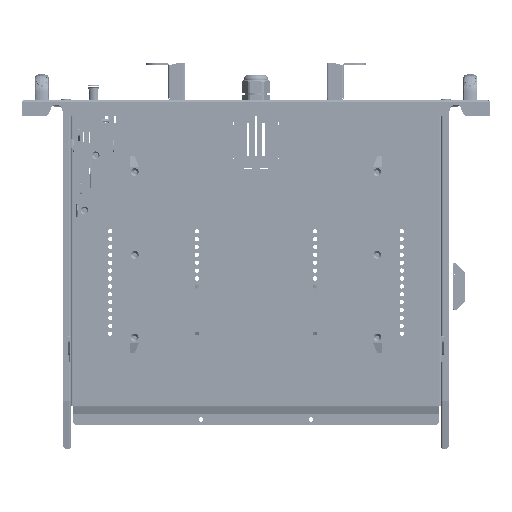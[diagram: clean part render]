
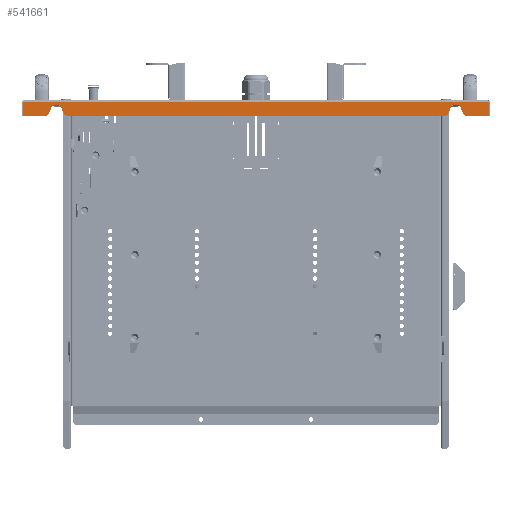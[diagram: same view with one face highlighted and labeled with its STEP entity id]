
A CAD part, front view. The second image highlights one B-rep face of the part: STEP entity #541661.
In plain terms, the highlighted planar face has unit normal (0, -1, 0).
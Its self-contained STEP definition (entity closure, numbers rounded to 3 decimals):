
#535806=CARTESIAN_POINT(' ',(1.6,0.,-2.5));
#535807=VERTEX_POINT(' ',#535806);
#535821=CARTESIAN_POINT(' ',(1.6,0.,-2.5));
#535826=DIRECTION(' ',(1.,0.,0.));
#535831=VECTOR(' ',#535826,1.);
#535836=LINE('',#535821,#535831);
#535841=CARTESIAN_POINT(' ',(592.4,0.,-2.5));
#535842=VERTEX_POINT(' ',#535841);
#535846=EDGE_CURVE(' ',#535807,#535842,#535836,.T.);
#540941=DIRECTION(' ',(-0.,-1.,0.));
#540946=CARTESIAN_POINT(' ',(1.6,0.,-20.));
#540951=DIRECTION(' ',(1.,-0.,0.));
#540956=AXIS2_PLACEMENT_3D(' ',#540946,#540941,#540951);
#540961=PLANE('NONE',#540956);
#540966=CARTESIAN_POINT(' ',(31.196,0.,-20.));
#540971=DIRECTION(' ',(0.809,0.,0.588));
#540976=VECTOR(' ',#540971,1.);
#540981=LINE('',#540966,#540976);
#540986=CARTESIAN_POINT(' ',(31.196,0.,-20.));
#540987=VERTEX_POINT(' ',#540986);
#540991=CARTESIAN_POINT(' ',(33.674,0.,-18.2));
#540992=VERTEX_POINT(' ',#540991);
#540996=EDGE_CURVE(' ',#540987,#540992,#540981,.T.);
#541001=ORIENTED_EDGE(' ',*,*,#540996,.T.);
#541006=CARTESIAN_POINT(' ',(33.674,0.,-18.2));
#541011=DIRECTION(' ',(0.391,0.,0.921));
#541016=VECTOR(' ',#541011,1.);
#541021=LINE('',#541006,#541016);
#541026=CARTESIAN_POINT(' ',(37.818,0.,-8.437));
#541027=VERTEX_POINT(' ',#541026);
#541031=EDGE_CURVE(' ',#540992,#541027,#541021,.T.);
#541036=ORIENTED_EDGE(' ',*,*,#541031,.T.);
#541041=CARTESIAN_POINT(' ',(41.5,0.,-10.));
#541046=DIRECTION(' ',(0.,1.,0.));
#541051=DIRECTION(' ',(-0.921,0.,0.391));
#541056=AXIS2_PLACEMENT_3D(' ',#541041,#541046,#541051);
#541061=CIRCLE('',#541056,4.);
#541066=CARTESIAN_POINT(' ',(41.5,0.,-6.));
#541067=VERTEX_POINT(' ',#541066);
#541071=EDGE_CURVE(' ',#541027,#541067,#541061,.T.);
#541076=ORIENTED_EDGE(' ',*,*,#541071,.T.);
#541081=CARTESIAN_POINT(' ',(41.5,0.,-6.));
#541086=DIRECTION(' ',(1.,0.,0.));
#541091=VECTOR(' ',#541086,1.);
#541096=LINE('',#541081,#541091);
#541101=CARTESIAN_POINT(' ',(45.5,0.,-6.));
#541102=VERTEX_POINT(' ',#541101);
#541106=EDGE_CURVE(' ',#541067,#541102,#541096,.T.);
#541111=ORIENTED_EDGE(' ',*,*,#541106,.T.);
#541116=CARTESIAN_POINT(' ',(45.501,0.,-9.999));
#541121=DIRECTION(' ',(0.,1.,0.));
#541126=DIRECTION(' ',(0.,0.,1.));
#541131=AXIS2_PLACEMENT_3D(' ',#541116,#541121,#541126);
#541136=CIRCLE('',#541131,3.999);
#541141=CARTESIAN_POINT(' ',(49.182,0.,-8.437));
#541142=VERTEX_POINT(' ',#541141);
#541146=EDGE_CURVE(' ',#541102,#541142,#541136,.T.);
#541151=ORIENTED_EDGE(' ',*,*,#541146,.T.);
#541156=CARTESIAN_POINT(' ',(49.182,0.,-8.437));
#541161=DIRECTION(' ',(0.391,0.,-0.921));
#541166=VECTOR(' ',#541161,1.);
#541171=LINE('',#541156,#541166);
#541176=CARTESIAN_POINT(' ',(53.326,0.,-18.2));
#541177=VERTEX_POINT(' ',#541176);
#541181=EDGE_CURVE(' ',#541142,#541177,#541171,.T.);
#541186=ORIENTED_EDGE(' ',*,*,#541181,.T.);
#541191=CARTESIAN_POINT(' ',(53.326,0.,-18.2));
#541196=DIRECTION(' ',(0.809,0.,-0.588));
#541201=VECTOR(' ',#541196,1.);
#541206=LINE('',#541191,#541201);
#541211=CARTESIAN_POINT(' ',(55.804,0.,-20.));
#541212=VERTEX_POINT(' ',#541211);
#541216=EDGE_CURVE(' ',#541177,#541212,#541206,.T.);
#541221=ORIENTED_EDGE(' ',*,*,#541216,.T.);
#541226=CARTESIAN_POINT(' ',(55.804,0.,-20.));
#541231=DIRECTION(' ',(1.,0.,0.));
#541236=VECTOR(' ',#541231,1.);
#541241=LINE('',#541226,#541236);
#541246=CARTESIAN_POINT(' ',(538.196,0.,-20.));
#541247=VERTEX_POINT(' ',#541246);
#541251=EDGE_CURVE(' ',#541212,#541247,#541241,.T.);
#541256=ORIENTED_EDGE(' ',*,*,#541251,.T.);
#541261=CARTESIAN_POINT(' ',(540.674,0.,-18.2));
#541266=DIRECTION(' ',(-0.809,0.,-0.588));
#541271=VECTOR(' ',#541266,1.);
#541276=LINE('',#541261,#541271);
#541281=CARTESIAN_POINT(' ',(540.674,0.,-18.2));
#541282=VERTEX_POINT(' ',#541281);
#541286=EDGE_CURVE(' ',#541282,#541247,#541276,.T.);
#541291=ORIENTED_EDGE(' ',*,*,#541286,.F.);
#541296=CARTESIAN_POINT(' ',(544.818,0.,-8.437));
#541301=DIRECTION(' ',(-0.391,0.,-0.921));
#541306=VECTOR(' ',#541301,1.);
#541311=LINE('',#541296,#541306);
#541316=CARTESIAN_POINT(' ',(544.818,0.,-8.437));
#541317=VERTEX_POINT(' ',#541316);
#541321=EDGE_CURVE(' ',#541317,#541282,#541311,.T.);
#541326=ORIENTED_EDGE(' ',*,*,#541321,.F.);
#541331=CARTESIAN_POINT(' ',(548.499,0.,-9.999));
#541336=DIRECTION(' ',(0.,-1.,0.));
#541341=DIRECTION(' ',(0.,0.,1.));
#541346=AXIS2_PLACEMENT_3D(' ',#541331,#541336,#541341);
#541351=CIRCLE('',#541346,3.999);
#541356=CARTESIAN_POINT(' ',(548.5,0.,-6.));
#541357=VERTEX_POINT(' ',#541356);
#541361=EDGE_CURVE(' ',#541357,#541317,#541351,.T.);
#541366=ORIENTED_EDGE(' ',*,*,#541361,.F.);
#541371=CARTESIAN_POINT(' ',(552.5,0.,-6.));
#541376=DIRECTION(' ',(-1.,0.,0.));
#541381=VECTOR(' ',#541376,1.);
#541386=LINE('',#541371,#541381);
#541391=CARTESIAN_POINT(' ',(552.5,0.,-6.));
#541392=VERTEX_POINT(' ',#541391);
#541396=EDGE_CURVE(' ',#541392,#541357,#541386,.T.);
#541401=ORIENTED_EDGE(' ',*,*,#541396,.F.);
#541406=CARTESIAN_POINT(' ',(552.5,0.,-9.999));
#541411=DIRECTION(' ',(0.,-1.,0.));
#541416=DIRECTION(' ',(0.921,0.,0.391));
#541421=AXIS2_PLACEMENT_3D(' ',#541406,#541411,#541416);
#541426=CIRCLE('',#541421,3.999);
#541431=CARTESIAN_POINT(' ',(556.182,0.,-8.437));
#541432=VERTEX_POINT(' ',#541431);
#541436=EDGE_CURVE(' ',#541432,#541392,#541426,.T.);
#541441=ORIENTED_EDGE(' ',*,*,#541436,.F.);
#541446=CARTESIAN_POINT(' ',(560.326,0.,-18.2));
#541451=DIRECTION(' ',(-0.391,0.,0.921));
#541456=VECTOR(' ',#541451,1.);
#541461=LINE('',#541446,#541456);
#541466=CARTESIAN_POINT(' ',(560.326,0.,-18.2));
#541467=VERTEX_POINT(' ',#541466);
#541471=EDGE_CURVE(' ',#541467,#541432,#541461,.T.);
#541476=ORIENTED_EDGE(' ',*,*,#541471,.F.);
#541481=CARTESIAN_POINT(' ',(562.804,0.,-20.));
#541486=DIRECTION(' ',(-0.809,0.,0.588));
#541491=VECTOR(' ',#541486,1.);
#541496=LINE('',#541481,#541491);
#541501=CARTESIAN_POINT(' ',(562.804,0.,-20.));
#541502=VERTEX_POINT(' ',#541501);
#541506=EDGE_CURVE(' ',#541502,#541467,#541496,.T.);
#541511=ORIENTED_EDGE(' ',*,*,#541506,.F.);
#541516=CARTESIAN_POINT(' ',(562.804,0.,-20.));
#541521=DIRECTION(' ',(1.,0.,0.));
#541526=VECTOR(' ',#541521,1.);
#541531=LINE('',#541516,#541526);
#541536=CARTESIAN_POINT(' ',(592.4,0.,-20.));
#541537=VERTEX_POINT(' ',#541536);
#541541=EDGE_CURVE(' ',#541502,#541537,#541531,.T.);
#541546=ORIENTED_EDGE(' ',*,*,#541541,.T.);
#541551=CARTESIAN_POINT(' ',(592.4,0.,-2.5));
#541556=DIRECTION(' ',(0.,0.,-1.));
#541561=VECTOR(' ',#541556,1.);
#541566=LINE('',#541551,#541561);
#541571=EDGE_CURVE(' ',#535842,#541537,#541566,.T.);
#541576=ORIENTED_EDGE(' ',*,*,#541571,.F.);
#541581=ORIENTED_EDGE(' ',*,*,#535846,.F.);
#541586=CARTESIAN_POINT(' ',(1.6,0.,-2.5));
#541591=DIRECTION(' ',(0.,0.,-1.));
#541596=VECTOR(' ',#541591,1.);
#541601=LINE('',#541586,#541596);
#541606=CARTESIAN_POINT(' ',(1.6,0.,-20.));
#541607=VERTEX_POINT(' ',#541606);
#541611=EDGE_CURVE(' ',#535807,#541607,#541601,.T.);
#541616=ORIENTED_EDGE(' ',*,*,#541611,.T.);
#541621=CARTESIAN_POINT(' ',(1.6,0.,-20.));
#541626=DIRECTION(' ',(1.,0.,0.));
#541631=VECTOR(' ',#541626,1.);
#541636=LINE('',#541621,#541631);
#541641=EDGE_CURVE(' ',#541607,#540987,#541636,.T.);
#541646=ORIENTED_EDGE(' ',*,*,#541641,.T.);
#541651=EDGE_LOOP(' ',(#541001,#541036,#541076,#541111,#541151,#541186,#541221,#541256,#541291,#541326,#541366,#541401,#541441,#541476,#541511,#541546,#541576,#541581,#541616,#541646));
#541656=FACE_OUTER_BOUND(' ',#541651,.T.);
#541661=ADVANCED_FACE('NONE',(#541656),#540961,.T.);
